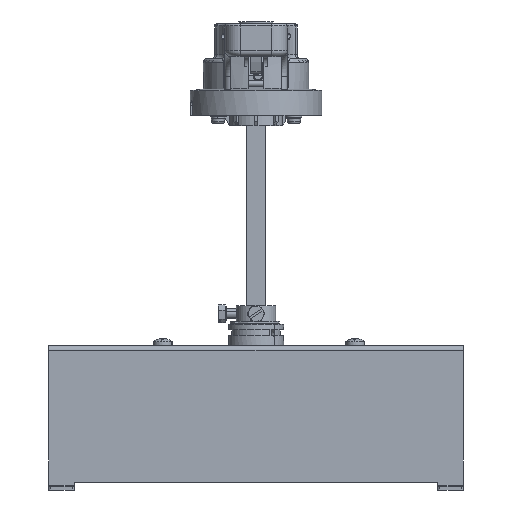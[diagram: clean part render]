
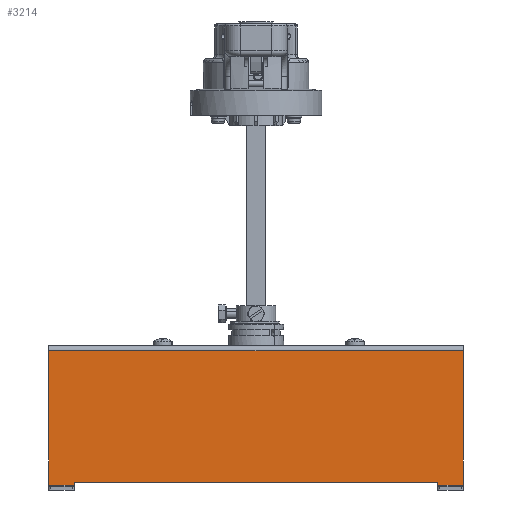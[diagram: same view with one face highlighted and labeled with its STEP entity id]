
A CAD part, front view. The second image highlights one B-rep face of the part: STEP entity #3214.
In plain terms, the highlighted planar face has unit normal (0, -1, 0).
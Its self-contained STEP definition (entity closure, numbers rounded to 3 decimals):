
#1952=PLANE('',#31933);
#3214=ADVANCED_FACE('',(#5405),#1952,.F.);
#5405=FACE_OUTER_BOUND('',#7115,.T.);
#7115=EDGE_LOOP('',(#16862,#16863,#16864,#16865,#16866,#16867,#16868,#16869,
#16870,#16871));
#9259=LINE('',#50114,#11863);
#9265=LINE('',#50127,#11869);
#9287=LINE('',#50179,#11891);
#9380=LINE('',#50983,#11984);
#9386=LINE('',#50994,#11990);
#9387=LINE('',#50996,#11991);
#9388=LINE('',#51000,#11992);
#9389=LINE('',#51001,#11993);
#11863=VECTOR('',#36019,1.);
#11869=VECTOR('',#36029,1.);
#11891=VECTOR('',#36067,1.);
#11984=VECTOR('',#36270,1.);
#11990=VECTOR('',#36278,1.);
#11991=VECTOR('',#36281,1.);
#11992=VECTOR('',#36284,1.);
#11993=VECTOR('',#36285,1.);
#16862=ORIENTED_EDGE('',*,*,#27213,.F.);
#16863=ORIENTED_EDGE('',*,*,#27214,.T.);
#16864=ORIENTED_EDGE('',*,*,#27034,.T.);
#16865=ORIENTED_EDGE('',*,*,#27058,.F.);
#16866=ORIENTED_EDGE('',*,*,#27212,.T.);
#16867=ORIENTED_EDGE('',*,*,#27215,.F.);
#16868=ORIENTED_EDGE('',*,*,#27206,.T.);
#16869=ORIENTED_EDGE('',*,*,#27216,.F.);
#16870=ORIENTED_EDGE('',*,*,#27028,.T.);
#16871=ORIENTED_EDGE('',*,*,#27217,.T.);
#23647=VERTEX_POINT('',#50113);
#23648=VERTEX_POINT('',#50115);
#23653=VERTEX_POINT('',#50128);
#23654=VERTEX_POINT('',#50129);
#23675=VERTEX_POINT('',#50180);
#23786=VERTEX_POINT('',#50981);
#23788=VERTEX_POINT('',#50984);
#23791=VERTEX_POINT('',#50993);
#23792=VERTEX_POINT('',#50997);
#23793=VERTEX_POINT('',#50998);
#27028=EDGE_CURVE('',#23648,#23647,#9259,.T.);
#27034=EDGE_CURVE('',#23653,#23654,#9265,.T.);
#27058=EDGE_CURVE('',#23675,#23654,#9287,.T.);
#27206=EDGE_CURVE('',#23788,#23786,#9380,.T.);
#27212=EDGE_CURVE('',#23675,#23791,#9386,.T.);
#27213=EDGE_CURVE('',#23792,#23793,#9387,.T.);
#27214=EDGE_CURVE('',#23792,#23653,#30361,.T.);
#27215=EDGE_CURVE('',#23788,#23791,#9388,.T.);
#27216=EDGE_CURVE('',#23648,#23786,#9389,.T.);
#27217=EDGE_CURVE('',#23647,#23793,#30362,.T.);
#30361=CIRCLE('',#31931,1.);
#30362=CIRCLE('',#31932,1.);
#31931=AXIS2_PLACEMENT_3D('',#50999,#36282,#36283);
#31932=AXIS2_PLACEMENT_3D('',#51002,#36286,#36287);
#31933=AXIS2_PLACEMENT_3D('',#51003,#36288,#36289);
#36019=DIRECTION('',(0.,0.,1.));
#36029=DIRECTION('',(0.,0.,-1.));
#36067=DIRECTION('',(-1.,0.,0.));
#36270=DIRECTION('',(0.,0.,-1.));
#36278=DIRECTION('',(0.,0.,1.));
#36281=DIRECTION('',(-1.,0.,0.));
#36282=DIRECTION('',(0.,1.,0.));
#36283=DIRECTION('',(0.,0.,1.));
#36284=DIRECTION('',(1.,0.,0.));
#36285=DIRECTION('',(-1.,0.,0.));
#36286=DIRECTION('',(0.,1.,0.));
#36287=DIRECTION('',(0.,0.,1.));
#36288=DIRECTION('',(0.,1.,0.));
#36289=DIRECTION('',(0.,0.,-1.));
#50113=CARTESIAN_POINT('',(-92.,-105.,-68.));
#50114=CARTESIAN_POINT('',(-92.,-105.,0.));
#50115=CARTESIAN_POINT('',(-92.,-105.,-68.5));
#50127=CARTESIAN_POINT('',(92.,-105.,0.));
#50128=CARTESIAN_POINT('',(92.,-105.,-68.));
#50129=CARTESIAN_POINT('',(92.,-105.,-68.5));
#50179=CARTESIAN_POINT('',(105.,-105.,-68.5));
#50180=CARTESIAN_POINT('',(105.,-105.,-68.5));
#50981=CARTESIAN_POINT('',(-105.,-105.,-68.5));
#50983=CARTESIAN_POINT('',(-105.,-105.,0.));
#50984=CARTESIAN_POINT('',(-105.,-105.,-0.5));
#50993=CARTESIAN_POINT('',(105.,-105.,-0.5));
#50994=CARTESIAN_POINT('',(105.,-105.,0.));
#50996=CARTESIAN_POINT('',(0.,-105.,-67.));
#50997=CARTESIAN_POINT('',(91.,-105.,-67.));
#50998=CARTESIAN_POINT('',(-91.,-105.,-67.));
#50999=CARTESIAN_POINT('',(91.,-105.,-68.));
#51000=CARTESIAN_POINT('',(105.,-105.,-0.5));
#51001=CARTESIAN_POINT('',(105.,-105.,-68.5));
#51002=CARTESIAN_POINT('',(-91.,-105.,-68.));
#51003=CARTESIAN_POINT('',(0.,-105.,0.));
